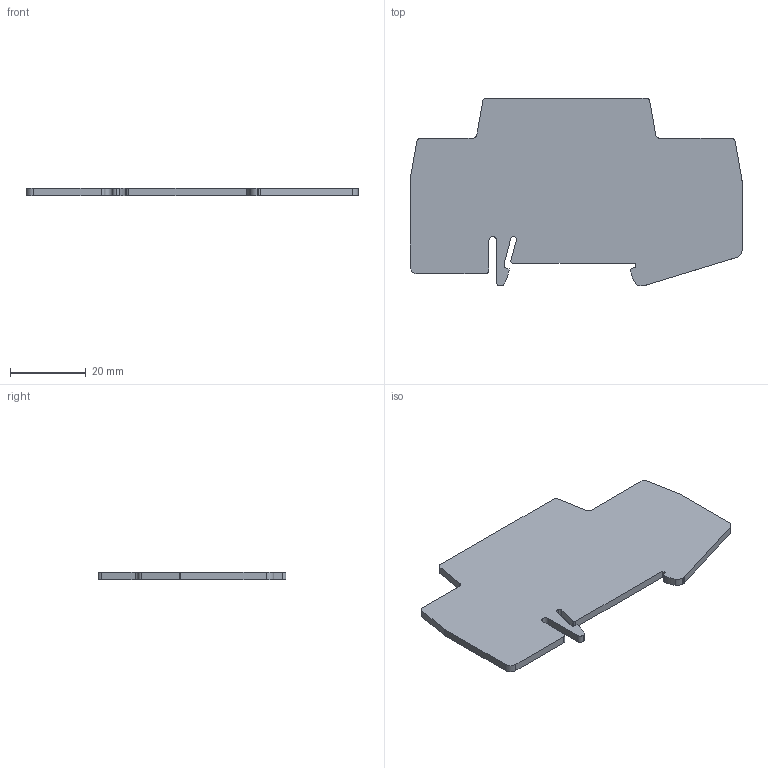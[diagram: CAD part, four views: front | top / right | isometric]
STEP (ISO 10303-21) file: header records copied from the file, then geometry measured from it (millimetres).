
FILE_DESCRIPTION(('OneSpaceDesigner STEP Export'),'2;1');
FILE_NAME('3030747_atp_sttb4-select.stp','2004-10-01T14:01:34',(''),(''),'OneSpace Designer STEP processor (Jan. 2003) for AP203(Solid Model)','OneSpace Designer 12.01C 26-Mar-2004 (C) CoCreate Software GmbH','');
FILE_SCHEMA(('CONFIG_CONTROL_DESIGN'));
Length unit declared in the file: millimetre
Products named in the file (2): 3030747_atp_sttb4-select
Assembly tree (1 placements, depth 2):
  3030747_atp_sttb4-select
    3030747_atp_sttb4-select
Bounding box: 87.65 x 49.6 x 2 mm (x, y, z)
Volume: 6941.4 mm3; surface area: 7546.7 mm2
Topology: 1 solids, 1 shells, 51 faces, 147 edges, 98 vertices
Faces by surface type: plane 27, cylinder 24
Entity records: 2289 total; most frequent: ORIENTED_EDGE 294, CARTESIAN_POINT 292, DIRECTION 289, EDGE_CURVE 147, VECTOR 99, LINE 99, VERTEX_POINT 98, AXIS2_PLACEMENT_3D 95
